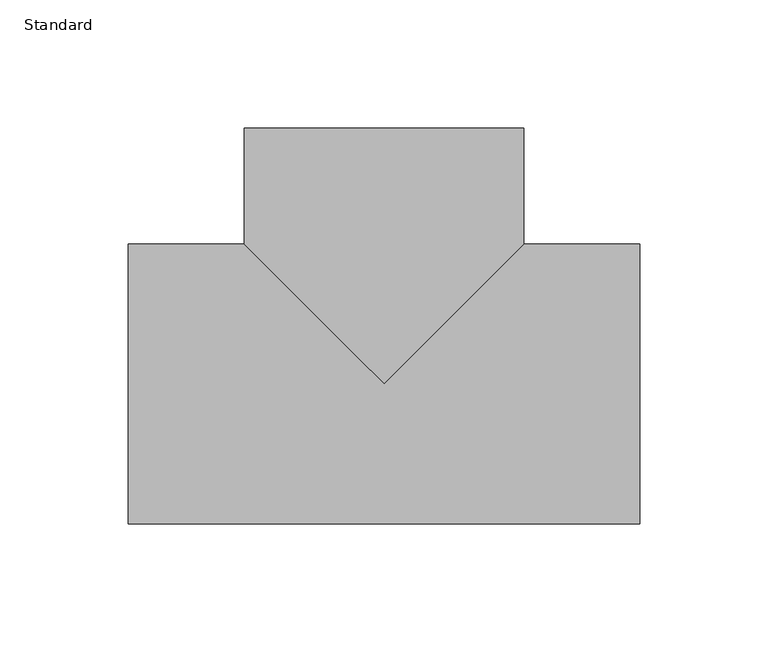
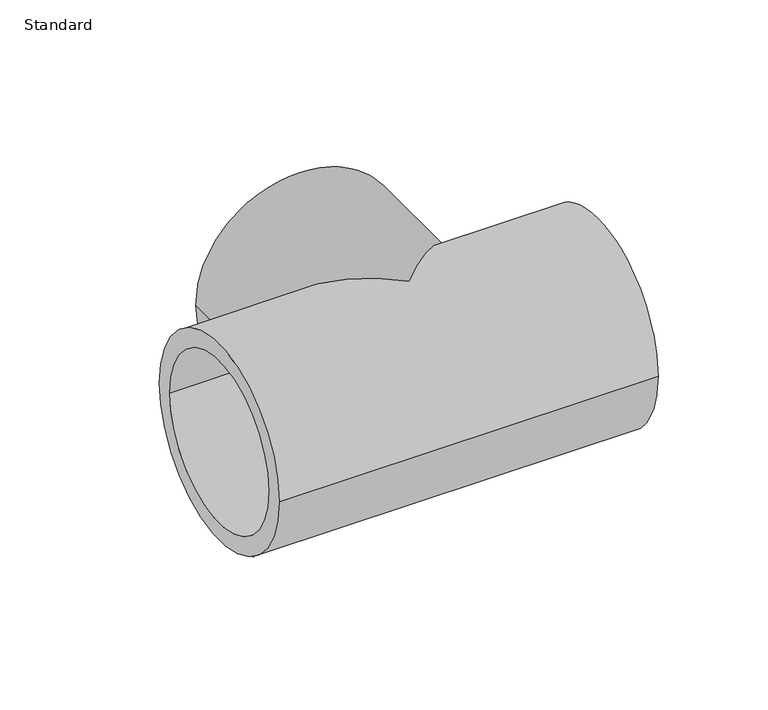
"""IFC4 building model written with IfcOpenShell, lengths in millimetres: pipe fitting geometry, Durapipe_PipeFitting_PVC_Tee90degEqual : Standard."""

from ifc_helpers import new_model, si_unit, frame, origin, place, context, project, spatial, polyline, circle_curve, ellipse_curve, source, transform, mapped, element, save
from ifc_brep_helpers import plane_surface, cylinder_surface, revolved_surface, advanced_brep


def standard_8d36d9a6(model_context):
    return source(origin(), model_context, "Body", "AdvancedBrep", [
        advanced_brep(
        [(-54.5, 99.5, 0.0), (54.5, 99.5, 0.0), (-45.0, 99.5, 0.0), (45.0, 99.5, 0.0), (-54.5, 54.5, 0.0), (0.0, 0.0, 54.5), (54.5, 54.5, 0.0), (0.0, 0.0, -54.5), (-99.5, -54.5, 0.0), (-99.5, 54.5, 0.0), (-99.5, -45.0, 0.0), (-99.5, 45.0, 0.0), (99.5, -54.5, 0.0), (99.5, 54.5, 0.0), (99.5, 45.0, 0.0), (99.5, -45.0, 0.0), (45.0, 48.5, 0.0), (-45.0, 48.5, 0.0), (0.0, 48.5, 0.0), (48.5, -45.0, 0.0), (48.5, 45.0, 0.0), (48.5, 0.0, 0.0), (-48.5, -45.0, 0.0), (-48.5, 45.0, 0.0), (-48.5, 0.0, 0.0)],
        [
            (0, 1, circle_curve(frame((0.0, 99.5, 0.0), z_axis=(0.0, 1.0, 0.0), x_axis=(1.0, 0.0, 0.0)), 54.5)),
            (1, 0, circle_curve(frame((0.0, 99.5, 0.0), z_axis=(0.0, 1.0, 0.0), x_axis=(1.0, 0.0, 0.0)), 54.5)),
            (2, 3, circle_curve(frame((0.0, 99.5, 0.0), z_axis=(0.0, -1.0, 0.0), x_axis=(-1.0, 0.0, 0.0)), 45.0)),
            (3, 2, circle_curve(frame((0.0, 99.5, 0.0), z_axis=(0.0, -1.0, 0.0), x_axis=(-1.0, 0.0, 0.0)), 45.0)),
            (0, 4),
            (4, 5, ellipse_curve(frame((0.0, 0.0, 0.0), z_axis=(0.7071067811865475, 0.7071067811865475, 0.0), x_axis=(-0.7071067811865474, 0.7071067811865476, 0.0)), 77.0746391, 54.5)),
            (5, 6, ellipse_curve(frame((0.0, 0.0, 0.0), z_axis=(-0.7071067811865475, 0.7071067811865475, 0.0), x_axis=(0.7071067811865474, 0.7071067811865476, 0.0)), 77.0746391, 54.5)),
            (6, 1),
            (6, 7, ellipse_curve(frame((0.0, 0.0, 0.0), z_axis=(-0.7071067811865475, 0.7071067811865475, 0.0), x_axis=(0.7071067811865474, 0.7071067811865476, 0.0)), 77.0746391, 54.5)),
            (7, 4, ellipse_curve(frame((0.0, 0.0, 0.0), z_axis=(0.7071067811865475, 0.7071067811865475, 0.0), x_axis=(-0.7071067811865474, 0.7071067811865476, 0.0)), 77.0746391, 54.5)),
            (8, 9, circle_curve(frame((-99.5, 0.0, 0.0), z_axis=(-1.0, 0.0, 0.0), x_axis=(0.0, 1.0, 0.0)), 54.5)),
            (9, 8, circle_curve(frame((-99.5, 0.0, 0.0), z_axis=(-1.0, 0.0, 0.0), x_axis=(0.0, 1.0, 0.0)), 54.5)),
            (10, 11, circle_curve(frame((-99.5, 0.0, 0.0), z_axis=(1.0, 0.0, 0.0), x_axis=(0.0, 1.0, 0.0)), 45.0)),
            (11, 10, circle_curve(frame((-99.5, 0.0, 0.0), z_axis=(1.0, 0.0, 0.0), x_axis=(0.0, 1.0, 0.0)), 45.0)),
            (12, 13, circle_curve(frame((99.5, 0.0, 0.0), z_axis=(1.0, 0.0, 0.0), x_axis=(0.0, 1.0, 0.0)), 54.5)),
            (13, 12, circle_curve(frame((99.5, 0.0, 0.0), z_axis=(1.0, 0.0, 0.0), x_axis=(0.0, 1.0, 0.0)), 54.5)),
            (14, 15, circle_curve(frame((99.5, 0.0, 0.0), z_axis=(-1.0, 0.0, 0.0), x_axis=(0.0, 1.0, 0.0)), 45.0)),
            (15, 14, circle_curve(frame((99.5, 0.0, 0.0), z_axis=(-1.0, 0.0, 0.0), x_axis=(0.0, 1.0, 0.0)), 45.0)),
            (8, 12),
            (13, 6),
            (4, 9),
            (16, 3),
            (2, 17),
            (17, 16, circle_curve(frame((0.0, 48.5, 0.0), z_axis=(0.0, -1.0, 0.0), x_axis=(-1.0, 0.0, 0.0)), 45.0)),
            (16, 17, circle_curve(frame((0.0, 48.5, 0.0), z_axis=(0.0, -1.0, 0.0), x_axis=(-1.0, 0.0, 0.0)), 45.0)),
            (17, 18),
            (18, 16),
            (19, 15),
            (14, 20),
            (20, 19, circle_curve(frame((48.5, 0.0, 0.0), z_axis=(-1.0, 0.0, 0.0), x_axis=(0.0, 1.0, 0.0)), 45.0)),
            (19, 20, circle_curve(frame((48.5, 0.0, 0.0), z_axis=(-1.0, 0.0, 0.0), x_axis=(0.0, 1.0, 0.0)), 45.0)),
            (20, 21),
            (21, 19),
            (10, 22),
            (22, 23, circle_curve(frame((-48.5, 0.0, 0.0), z_axis=(1.0, 0.0, 0.0), x_axis=(0.0, 1.0, 0.0)), 45.0)),
            (23, 11),
            (23, 22, circle_curve(frame((-48.5, 0.0, 0.0), z_axis=(1.0, 0.0, 0.0), x_axis=(0.0, 1.0, 0.0)), 45.0)),
            (22, 24),
            (24, 23),
        ],
        [
            plane_surface(frame((0.0, 99.5, 0.0), z_axis=(0.0, 1.0, 0.0), x_axis=(0.0, 0.0, 1.0))),
            cylinder_surface(frame((0.0, 99.5, 0.0), z_axis=(0.0, 1.0, 0.0), x_axis=(1.0, 0.0, 0.0)), 54.5),
            plane_surface(frame((-99.5, 0.0, 0.0), z_axis=(-1.0, 0.0, 0.0), x_axis=(0.0, 0.0, 1.0))),
            plane_surface(frame((99.5, 0.0, 0.0), z_axis=(1.0, 0.0, 0.0), x_axis=(0.0, 0.0, 1.0))),
            cylinder_surface(frame((-99.5, 0.0, 0.0), z_axis=(-1.0, 0.0, 0.0), x_axis=(0.0, 1.0, 0.0)), 54.5),
            revolved_surface(polyline([(-45.0, 48.5, 0.0), (-45.0, 99.5, 0.0)]), (0.0, 2074.5, 0.0), (0.0, -1.0, 0.0)),
            plane_surface(frame((0.0, 48.5, 0.0), z_axis=(0.0, 1.0, 0.0), x_axis=(-1.0, 0.0, 0.0))),
            revolved_surface(polyline([(48.5, 45.0, 0.0), (99.5, 45.0, 0.0)]), (2076.0, 0.0, 0.0), (-1.0, 0.0, 0.0)),
            plane_surface(frame((48.5, 0.0, 0.0), z_axis=(1.0, 0.0, 0.0), x_axis=(0.0, 1.0, 0.0))),
            revolved_surface(polyline([(-99.5, 45.0, 0.0), (-48.5, 45.0, 0.0)]), (2076.0, 0.0, 0.0), (-1.0, 0.0, 0.0)),
            plane_surface(frame((-48.5, 0.0, 0.0), z_axis=(-1.0, 0.0, 0.0), x_axis=(0.0, 1.0, 0.0))),
        ],
        [
            (0, [[1, 2], [3, 4]]),
            (1, [[-1, 5, 6, 7, 8]]),
            (1, [[-2, -8, 9, 10, -5]]),
            (2, [[11, 12], [13, 14]]),
            (3, [[15, 16], [17, 18]]),
            (4, [[-11, 19, -16, 20, -7, -6, 21]]),
            (4, [[-12, -21, -10, -9, -20, -15, -19]]),
            (5, [[22, -3, 23, 24]]),
            (5, [[-22, 25, -23, -4]]),
            (6, [[-24, 26, 27]]),
            (6, [[-25, -27, -26]]),
            (7, [[28, -17, 29, 30]]),
            (7, [[-28, 31, -29, -18]]),
            (8, [[-30, 32, 33]]),
            (8, [[-31, -33, -32]]),
            (9, [[34, 35, 36, -13]]),
            (9, [[-34, -14, -36, 37]]),
            (10, [[-35, 38, 39]]),
            (10, [[-37, -39, -38]]),
        ],
    ),
    ])


if __name__ == "__main__":
    model = new_model("IFC4")
    model_context = context("Model", 3, world=origin())
    ifc_project = project(units=[si_unit("LENGTHUNIT", "METRE", prefix="MILLI")], contexts=[model_context])
    site = spatial("IfcSite", under=ifc_project)
    building = spatial("IfcBuilding", under=site)
    placement = place(None, origin())
    standard_shape = standard_8d36d9a6(model_context)
    element("IfcPipeFitting", 1, ObjectType="Durapipe_PipeFitting_PVC_Tee90degEqual : Standard", at=placement, inside=building, context=model_context, shape_type="MappedRepresentation", body=[
        mapped(standard_shape, transform((0.0, 0.0, 0.0), x_axis=(1.0, 0.0, 0.0), y_axis=(0.0, 1.0, 0.0), z_axis=(0.0, 0.0, 1.0))),
    ])
    save(model, "model.ifc")
